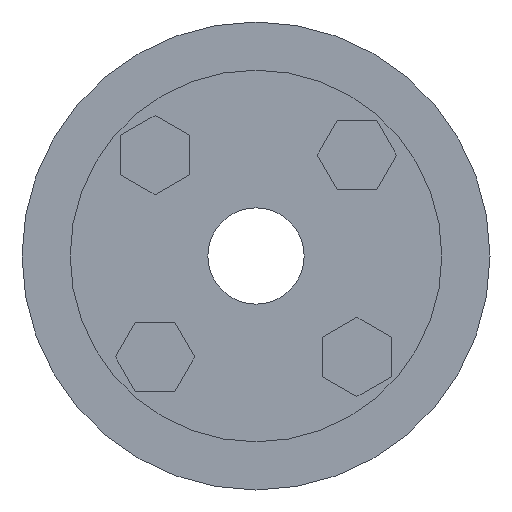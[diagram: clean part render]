
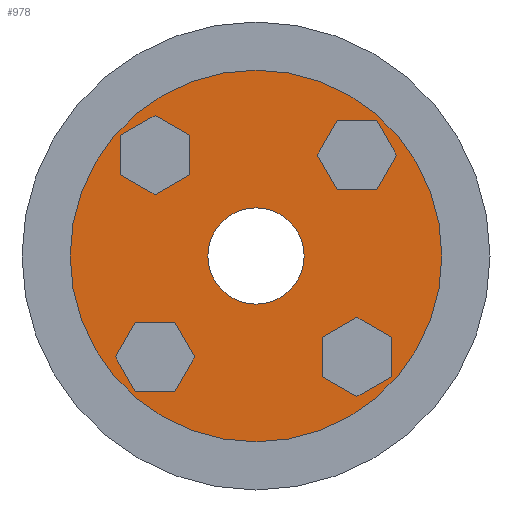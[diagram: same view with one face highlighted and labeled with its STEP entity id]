
A CAD part, left-side view. The second image highlights one B-rep face of the part: STEP entity #978.
In plain terms, the highlighted planar face has unit normal (-1, 0, 0).
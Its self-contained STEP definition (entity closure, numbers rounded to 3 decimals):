
#499 = EDGE_CURVE ( 'NONE', #832, #500, #2013, .T. ) ;
#500 = VERTEX_POINT ( 'NONE', #2008 ) ;
#785 = VERTEX_POINT ( 'NONE', #2508 ) ;
#787 = EDGE_CURVE ( 'NONE', #788, #785, #2507, .T. ) ;
#788 = VERTEX_POINT ( 'NONE', #2502 ) ;
#832 = VERTEX_POINT ( 'NONE', #2826 ) ;
#945 = ORIENTED_EDGE ( 'NONE', *, *, #946, .F. ) ;
#946 = EDGE_CURVE ( 'NONE', #500, #832, #2692, .T. ) ;
#947 = ORIENTED_EDGE ( 'NONE', *, *, #499, .F. ) ;
#948 = EDGE_LOOP ( 'NONE', ( #949, #950 ) ) ;
#949 = ORIENTED_EDGE ( 'NONE', *, *, #787, .T. ) ;
#950 = ORIENTED_EDGE ( 'NONE', *, *, #951, .T. ) ;
#951 = EDGE_CURVE ( 'NONE', #785, #788, #2687, .T. ) ;
#978 = ADVANCED_FACE ( 'NONE', ( #2644, #2643 ), #2645, .F. ) ;
#979 = EDGE_LOOP ( 'NONE', ( #945, #947 ) ) ;
#2008 = CARTESIAN_POINT ( 'NONE',  ( 0., 0., 7. ) ) ;
#2009 = DIRECTION ( 'NONE',  ( 0., 0., 1. ) ) ;
#2010 = DIRECTION ( 'NONE',  ( -1., 0., 0. ) ) ;
#2011 = CARTESIAN_POINT ( 'NONE',  ( 0., 0., 0. ) ) ;
#2012 = AXIS2_PLACEMENT_3D ( 'NONE', #2011, #2010, #2009 ) ;
#2013 = CIRCLE ( 'NONE', #2012, 7. ) ;
#2502 = CARTESIAN_POINT ( 'NONE',  ( 0., 0., 27. ) ) ;
#2503 = DIRECTION ( 'NONE',  ( 0., 0., 1. ) ) ;
#2504 = DIRECTION ( 'NONE',  ( -1., 0., 0. ) ) ;
#2505 = CARTESIAN_POINT ( 'NONE',  ( 0., 0., 0. ) ) ;
#2506 = AXIS2_PLACEMENT_3D ( 'NONE', #2505, #2504, #2503 ) ;
#2507 = CIRCLE ( 'NONE', #2506, 27. ) ;
#2508 = CARTESIAN_POINT ( 'NONE',  ( 0., 0., -27. ) ) ;
#2639 = DIRECTION ( 'NONE',  ( 0., 0., -1. ) ) ;
#2640 = DIRECTION ( 'NONE',  ( 1., 0., 0. ) ) ;
#2641 = CARTESIAN_POINT ( 'NONE',  ( 0., 0., 0. ) ) ;
#2642 = AXIS2_PLACEMENT_3D ( 'NONE', #2641, #2640, #2639 ) ;
#2643 = FACE_OUTER_BOUND ( 'NONE', #948, .T. ) ;
#2644 = FACE_BOUND ( 'NONE', #979, .T. ) ;
#2645 = PLANE ( 'NONE',  #2642 ) ;
#2684 = DIRECTION ( 'NONE',  ( 0., 0., 1. ) ) ;
#2685 = DIRECTION ( 'NONE',  ( -1., 0., 0. ) ) ;
#2686 = AXIS2_PLACEMENT_3D ( 'NONE', #2693, #2685, #2684 ) ;
#2687 = CIRCLE ( 'NONE', #2686, 27. ) ;
#2688 = DIRECTION ( 'NONE',  ( 0., 0., 1. ) ) ;
#2689 = DIRECTION ( 'NONE',  ( -1., 0., 0. ) ) ;
#2690 = CARTESIAN_POINT ( 'NONE',  ( 0., 0., 0. ) ) ;
#2691 = AXIS2_PLACEMENT_3D ( 'NONE', #2690, #2689, #2688 ) ;
#2692 = CIRCLE ( 'NONE', #2691, 7. ) ;
#2693 = CARTESIAN_POINT ( 'NONE',  ( 0., 0., 0. ) ) ;
#2826 = CARTESIAN_POINT ( 'NONE',  ( 0., 0., -7. ) ) ;
